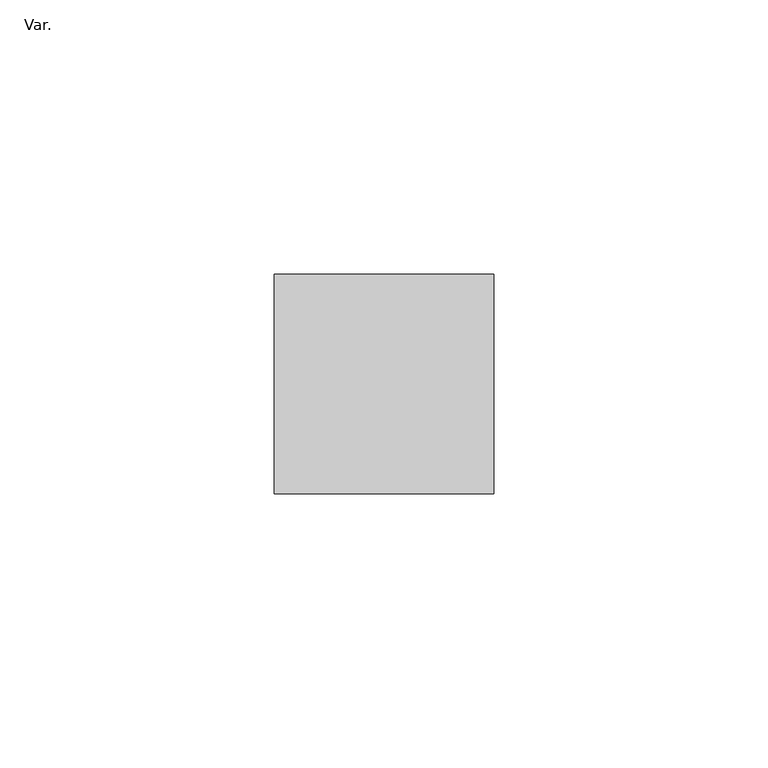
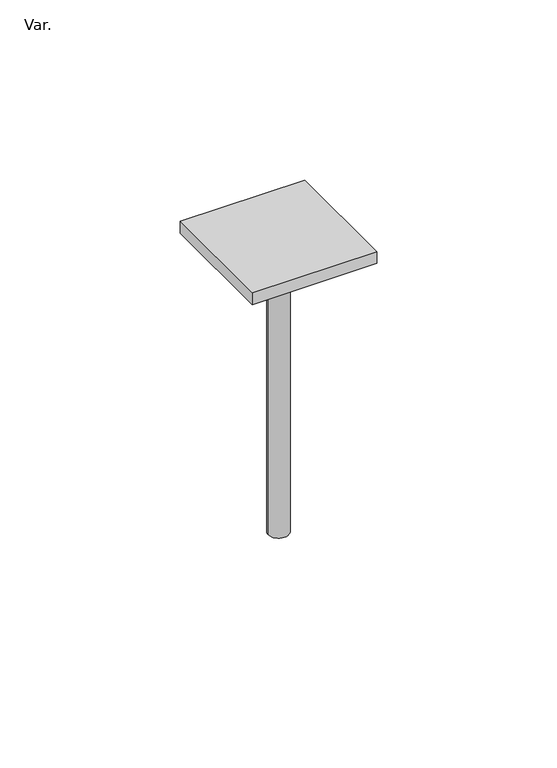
"""IFC4 building model written with IfcOpenShell, lengths in millimetres: pipe fitting geometry, AmancoWavin_ConexõesdeTubos_QSZNãoUsarBarracomBase : Var.."""

from ifc_helpers import new_model, si_unit, point, frame, origin, origin_with_axes, origin_2d, place, context, project, spatial, polyline, circle_curve, trimmed, segment, composite_curve, outline, extrude, source, transform, mapped, element, save


def var_595acd19(model_context):
    return source(origin(), model_context, "Body", "SweptSolid", [
        extrude(outline(polyline([(20.0, 20.0), (20.0, -20.0), (-20.0, -20.0), (-20.0, 20.0), (20.0, 20.0)])), frame((0.0, 0.0, 96.0), z_axis=(0.0, 0.0, 1.0), x_axis=(1.0, 0.0, 0.0)), (0.0, 0.0, 1.0), 4.0),
        extrude(outline(composite_curve([segment(trimmed(circle_curve(origin_2d(), 3.254375), [point((-3.254375, 0.0))], [point((3.254375, 0.0))], False, "CARTESIAN"), True, "CONTINUOUS"), segment(trimmed(circle_curve(origin_2d(), 3.254375), [point((3.254375, 0.0))], [point((-3.254375, 0.0))], False, "CARTESIAN"), True, "CONTINUOUS")], self_intersect=False)), origin_with_axes(), (0.0, 0.0, 1.0), 96.0),
    ])


if __name__ == "__main__":
    model = new_model("IFC4")
    model_context = context("Model", 3, world=origin())
    ifc_project = project(units=[si_unit("LENGTHUNIT", "METRE", prefix="MILLI")], contexts=[model_context])
    site = spatial("IfcSite", under=ifc_project)
    building = spatial("IfcBuilding", under=site)
    placement = place(None, origin())
    var_shape = var_595acd19(model_context)
    element("IfcPipeFitting", 1, ObjectType="AmancoWavin_ConexõesdeTubos_QSZNãoUsarBarracomBase : Var.", at=placement, inside=building, context=model_context, shape_type="MappedRepresentation", body=[
        mapped(var_shape, transform((0.0, 0.0, 0.0), x_axis=(1.0, 0.0, 0.0), y_axis=(0.0, 1.0, 0.0), z_axis=(0.0, 0.0, 1.0))),
    ])
    save(model, "model.ifc")
